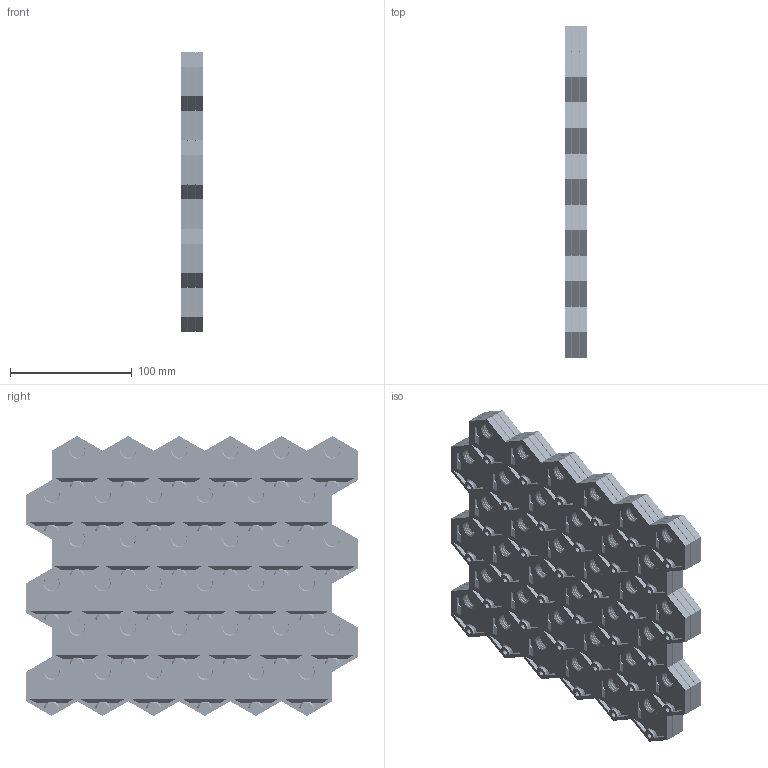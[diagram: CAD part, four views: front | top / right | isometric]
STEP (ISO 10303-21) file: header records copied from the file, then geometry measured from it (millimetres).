
FILE_DESCRIPTION(/* description */ ('','CAx-IF Rec.Pracs.---Representation and Presentation of Product Manufacturing Information (PMI)---4.0---2014-10-13'),/* implementation_level */ '2;1');
FILE_NAME(/* name */ 'GOEWS 6x6 Tile Stack with 0.4mm Spacer.step',/* time_stamp */ '2024-11-29T15:39:23-05:00',/* author */ (''),/* organization */ (''),/* preprocessor_version */ 'ST-DEVELOPER v20',/* originating_system */ 'Autodesk Translation Framework v13.20.0.188',/* authorisation */ '');
FILE_SCHEMA (('AP242_MANAGED_MODEL_BASED_3D_ENGINEERING_MIM_LF { 1 0 10303 442 1 1 4 }'));
Products named in the file (1): GOEWS Parametric Tile Stack with Spacer
Bounding box: 18.8 x 273 x 230.36 mm (x, y, z)
Volume: 538761.8 mm3; surface area: 587810.8 mm2
Topology: 5 solids, 5 shells, 5745 faces, 15855 edges, 10228 vertices
Faces by surface type: plane 3909, cylinder 1296, cone 324, bspline 216
Full cylindrical faces by diameter (mm): 4 x108, 8 x108, 12.322 x216, 14.55 x216
Entity records: 306953 total; most frequent: CARTESIAN_POINT 164669, ORIENTED_EDGE 31710, DIRECTION 25835, EDGE_CURVE 15855, LINE 11319, VECTOR 11319, VERTEX_POINT 10228, AXIS2_PLACEMENT_3D 7258
